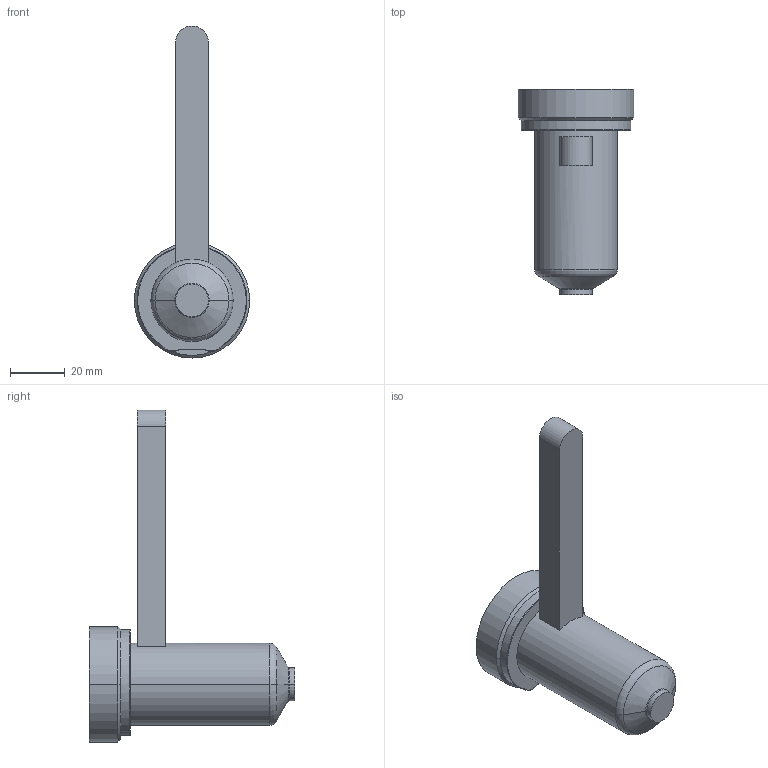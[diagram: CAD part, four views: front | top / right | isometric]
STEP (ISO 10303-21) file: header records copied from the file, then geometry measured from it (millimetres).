
FILE_DESCRIPTION((''),'2;1');
FILE_NAME('EO08_VG-FB_STD_060_COT','2024-02-19T13:28:27',('sundharh'),(''),'CREO PARAMETRIC BY PTC INC, 2023154','CREO PARAMETRIC BY PTC INC, 2023154','');
FILE_SCHEMA(('CONFIG_CONTROL_DESIGN'));
Length unit declared in the file: millimetre
Products named in the file (1): EO08_VG-FB_STD_060_COT
Bounding box: 42 x 75 x 121 mm (x, y, z)
Volume: 70044.9 mm3; surface area: 13505.4 mm2
Topology: 1 solids, 1 shells, 31 faces, 67 edges, 40 vertices
Faces by surface type: cylinder 11, plane 9, torus 7, cone 4
Entity records: 951 total; most frequent: CARTESIAN_POINT 218, DIRECTION 159, ORIENTED_EDGE 134, AXIS2_PLACEMENT_3D 67, EDGE_CURVE 67, VERTEX_POINT 40, CIRCLE 36, EDGE_LOOP 33
